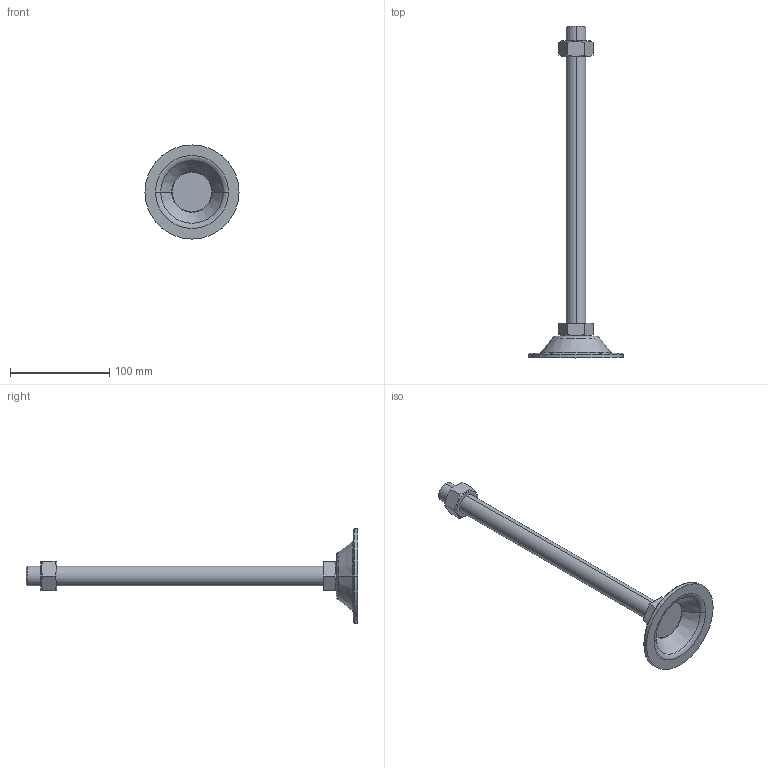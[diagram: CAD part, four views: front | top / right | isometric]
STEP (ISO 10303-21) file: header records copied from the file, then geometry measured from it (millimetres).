
FILE_DESCRIPTION (( 'STEP AP214' ), '1' );
FILE_NAME ('BL95-M20-300.step', '2021-01-06T05:41:53', ( '' ), ( '' ), 'SwSTEP 2.0', 'SolidWorks 2019', '' );
FILE_SCHEMA (( 'AUTOMOTIVE_DESIGN' ));
Length unit declared in the file: millimetre
Products named in the file (1): BL95-M20-300
Bounding box: 95 x 335 x 95 mm (x, y, z)
Volume: 149877.5 mm3; surface area: 43350.3 mm2
Topology: 3 solids, 3 shells, 53 faces, 110 edges, 66 vertices
Faces by surface type: plane 21, cone 16, torus 10, cylinder 6
Entity records: 1630 total; most frequent: CARTESIAN_POINT 440, DIRECTION 252, ORIENTED_EDGE 220, EDGE_CURVE 110, AXIS2_PLACEMENT_3D 106, VERTEX_POINT 66, EDGE_LOOP 58, FACE_OUTER_BOUND 53
